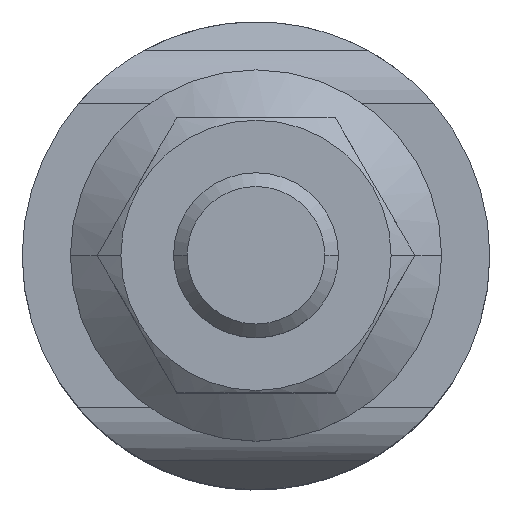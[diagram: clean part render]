
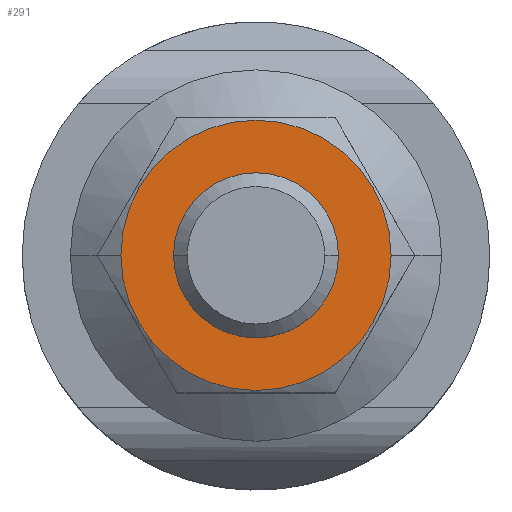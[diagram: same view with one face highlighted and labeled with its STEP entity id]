
A CAD part, top view. The second image highlights one B-rep face of the part: STEP entity #291.
In plain terms, the highlighted planar face has unit normal (0, 0, 1).
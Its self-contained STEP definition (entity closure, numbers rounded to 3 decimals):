
#291=ADVANCED_FACE('',(#552,#553),#554,.T.);
#552=FACE_BOUND('',#753,.T.);
#553=FACE_OUTER_BOUND('',#754,.T.);
#554=PLANE('',#755);
#753=EDGE_LOOP('',(#1337,#1338));
#754=EDGE_LOOP('',(#1339,#1340));
#755=AXIS2_PLACEMENT_3D('',#1341,#1342,#1343);
#1337=ORIENTED_EDGE('',*,*,#1618,.T.);
#1338=ORIENTED_EDGE('',*,*,#1581,.T.);
#1339=ORIENTED_EDGE('',*,*,#1600,.T.);
#1340=ORIENTED_EDGE('',*,*,#1617,.T.);
#1341=CARTESIAN_POINT('',(-8.66,-5.,108.162));
#1342=DIRECTION('',(0.0,0.0,1.0));
#1343=DIRECTION('',(1.0,0.0,0.0));
#1581=EDGE_CURVE('',#1901,#1898,#1902,.T.);
#1600=EDGE_CURVE('',#1936,#1933,#1937,.T.);
#1617=EDGE_CURVE('',#1933,#1936,#1961,.T.);
#1618=EDGE_CURVE('',#1898,#1901,#1962,.T.);
#1898=VERTEX_POINT('',#2384);
#1901=VERTEX_POINT('',#2388);
#1902=CIRCLE('',#2389,3.0);
#1933=VERTEX_POINT('',#2444);
#1936=VERTEX_POINT('',#2448);
#1937=CIRCLE('',#2449,4.913);
#1961=CIRCLE('',#2525,4.913);
#1962=CIRCLE('',#2526,3.0);
#2384=CARTESIAN_POINT('',(3.0,0.0,108.162));
#2388=CARTESIAN_POINT('',(-3.0,0.,108.162));
#2389=AXIS2_PLACEMENT_3D('',#2729,#2730,#2731);
#2444=CARTESIAN_POINT('',(4.913,0.,108.162));
#2448=CARTESIAN_POINT('',(-4.913,0.,108.162));
#2449=AXIS2_PLACEMENT_3D('',#2757,#2758,#2759);
#2525=AXIS2_PLACEMENT_3D('',#2767,#2768,#2769);
#2526=AXIS2_PLACEMENT_3D('',#2770,#2771,#2772);
#2729=CARTESIAN_POINT('',(0.0,0.0,108.162));
#2730=DIRECTION('',(0.0,0.0,-1.0));
#2731=DIRECTION('',(1.0,0.0,0.0));
#2757=CARTESIAN_POINT('',(0.0,0.,108.162));
#2758=DIRECTION('',(0.0,0.0,1.0));
#2759=DIRECTION('',(-1.0,0.0,0.0));
#2767=CARTESIAN_POINT('',(0.0,0.,108.162));
#2768=DIRECTION('',(0.0,0.0,1.0));
#2769=DIRECTION('',(-1.0,0.0,0.0));
#2770=CARTESIAN_POINT('',(0.0,0.0,108.162));
#2771=DIRECTION('',(0.0,0.0,-1.0));
#2772=DIRECTION('',(1.0,0.0,0.0));
